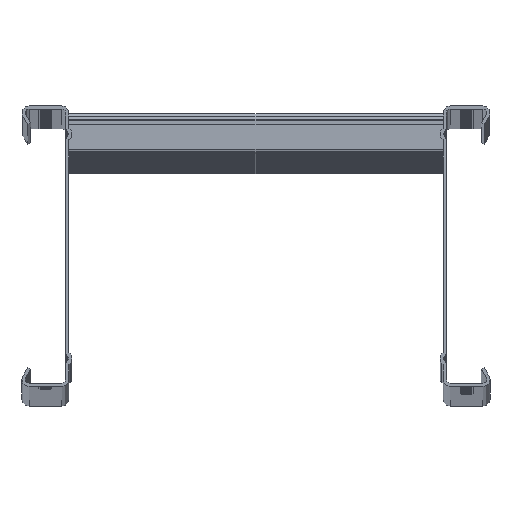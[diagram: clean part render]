
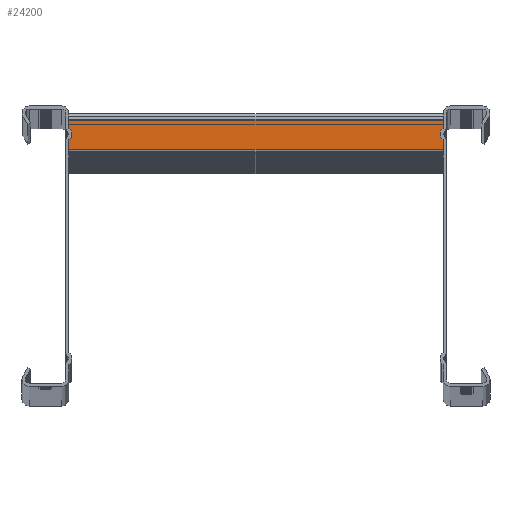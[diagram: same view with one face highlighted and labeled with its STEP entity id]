
A CAD part, top view. The second image highlights one B-rep face of the part: STEP entity #24200.
In plain terms, the highlighted planar face has unit normal (0, 0, 1) as drawn and (1, 0, 0) by its records, which use the part's own axes.
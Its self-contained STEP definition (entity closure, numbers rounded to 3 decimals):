
#1290=CARTESIAN_POINT('',(39.75,881.,400.));
#1300=VERTEX_POINT('',#1290);
#1330=CARTESIAN_POINT('',(39.75,0.,400.));
#1340=DIRECTION('',(0.,-1.,0.));
#1350=VECTOR('',#1340,1.);
#1360=LINE('',#1330,#1350);
#1370=CARTESIAN_POINT('',(39.75,897.,400.));
#1380=VERTEX_POINT('',#1370);
#1390=EDGE_CURVE('',#1380,#1300,#1360,.T.);
#21970=CARTESIAN_POINT('',(39.75,897.,600.));
#21980=VERTEX_POINT('',#21970);
#22100=CARTESIAN_POINT('',(39.75,897.,0.));
#22110=DIRECTION('',(0.,0.,1.));
#22120=VECTOR('',#22110,1.);
#22130=LINE('',#22100,#22120);
#22140=EDGE_CURVE('',#1380,#21980,#22130,.T.);
#22290=CARTESIAN_POINT('',(39.75,881.,600.));
#22300=VERTEX_POINT('',#22290);
#22330=CARTESIAN_POINT('',(39.75,881.,0.));
#22340=DIRECTION('',(0.,0.,1.));
#22350=VECTOR('',#22340,1.);
#22360=LINE('',#22330,#22350);
#22370=EDGE_CURVE('',#1300,#22300,#22360,.T.);
#22770=CARTESIAN_POINT('',(39.75,0.,600.));
#22780=DIRECTION('',(0.,1.,0.));
#22790=VECTOR('',#22780,1.);
#22800=LINE('',#22770,#22790);
#22810=EDGE_CURVE('',#22300,#21980,#22800,.T.);
#24090=CARTESIAN_POINT('',(39.75,900.,0.));
#24100=DIRECTION('',(1.,0.,0.));
#24110=DIRECTION('',(0.,-1.,0.));
#24120=AXIS2_PLACEMENT_3D('',#24090,#24100,#24110);
#24130=PLANE('',#24120);
#24140=ORIENTED_EDGE('',*,*,#1390,.F.);
#24150=ORIENTED_EDGE('',*,*,#22370,.F.);
#24160=ORIENTED_EDGE('',*,*,#22810,.F.);
#24170=ORIENTED_EDGE('',*,*,#22140,.T.);
#24180=EDGE_LOOP('',(#24170,#24160,#24150,#24140));
#24190=FACE_OUTER_BOUND('',#24180,.T.);
#24200=ADVANCED_FACE('',(#24190),#24130,.T.);
